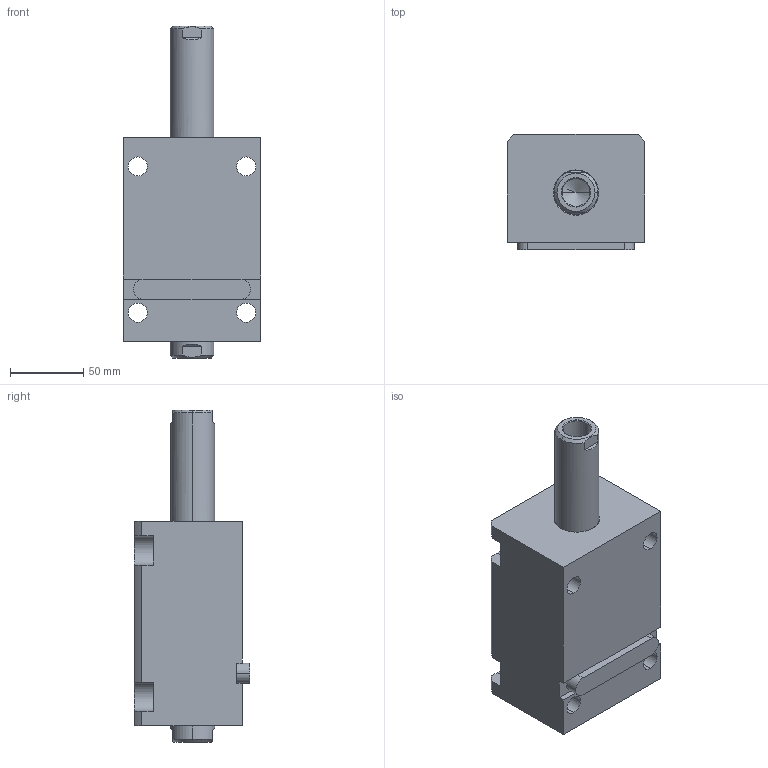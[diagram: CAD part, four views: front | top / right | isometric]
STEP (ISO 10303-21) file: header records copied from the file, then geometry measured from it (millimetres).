
FILE_DESCRIPTION (( 'STEP AP203' ), '1' );
FILE_NAME ('CHTB-LW50-65N.STEP', '2018-05-18T08:29:47', ( '' ), ( '' ), 'SwSTEP 2.0', 'SolidWorks 2015', '' );
FILE_SCHEMA (( 'CONFIG_CONTROL_DESIGN' ));
Length unit declared in the file: millimetre
Products named in the file (4): CHTM-SDMA50QG; 活塞杆LW50-65N; CHTB-LW50-65N; 掛极LW50-65N
Assembly tree (3 placements, depth 2):
  CHTB-LW50-65N
    掛极LW50-65N
    活塞杆LW50-65N
    CHTM-SDMA50QG
Bounding box: 94 x 79 x 227 mm (x, y, z)
Volume: 880073.1 mm3; surface area: 138095.4 mm2
Topology: 3 solids, 3 shells, 221 faces, 588 edges, 385 vertices
Faces by surface type: cylinder 102, plane 58, cone 31, torus 16, bspline 14
Entity records: 11831 total; most frequent: CARTESIAN_POINT 6126, ORIENTED_EDGE 1160, DIRECTION 1056, EDGE_CURVE 580, AXIS2_PLACEMENT_3D 416, VERTEX_POINT 385, EDGE_LOOP 257, VECTOR 224
